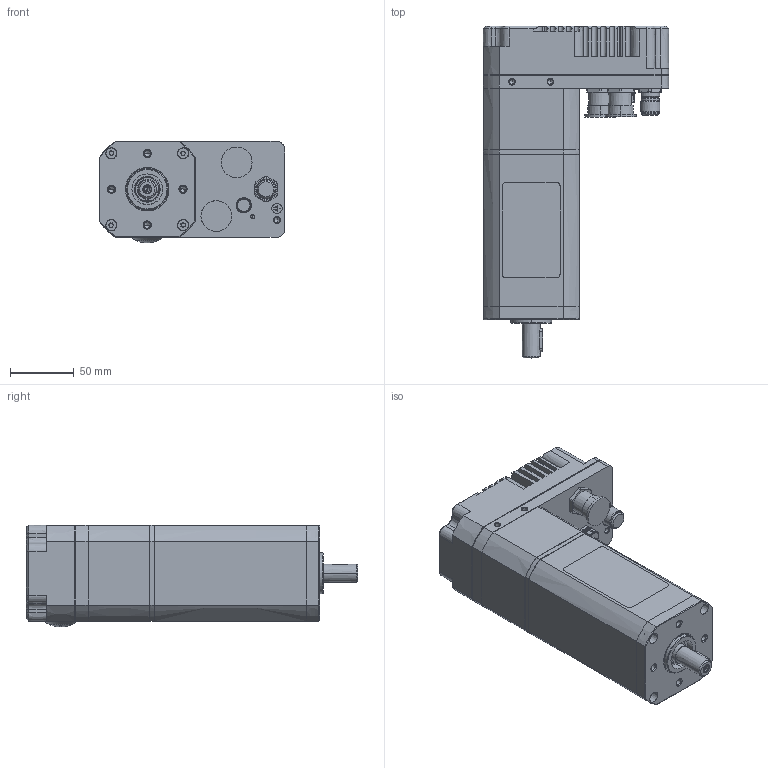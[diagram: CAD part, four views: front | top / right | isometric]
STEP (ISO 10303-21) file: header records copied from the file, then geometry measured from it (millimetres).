
FILE_DESCRIPTION((''),'2;1');
FILE_NAME('80370100','2018-09-17T',('alecma1'),('CROUZET-AUTOMATISMES'),'CREO PARAMETRIC BY PTC INC, 2017170','CREO PARAMETRIC BY PTC INC, 2017170','');
FILE_SCHEMA(('AP203_CONFIGURATION_CONTROLLED_3D_DESIGN_OF_MECHANICAL_PARTS_AND_ASSEMBLIES_MIM_LF { 1 0 10303 403 2 1 2 }'));
Products named in the file (1): 80370100
Bounding box: 145 x 259.6 x 79.7 mm (x, y, z)
Surface area: 135542.8 mm2 (no closed solid volume)
Topology: 0 solids, 0 shells, 727 faces, 3759 edges, 3705 vertices
Faces by surface type: bspline 686, torus 37, sphere 4
Entity records: 72925 total; most frequent: CARTESIAN_POINT 33479, DIRECTION 5728, TRIMMED_CURVE 4802, VECTOR 3983, LINE 3983, DEFINITIONAL_REPRESENTATION 3671, PCURVE 3671, COMPOSITE_CURVE_SEGMENT 3671
